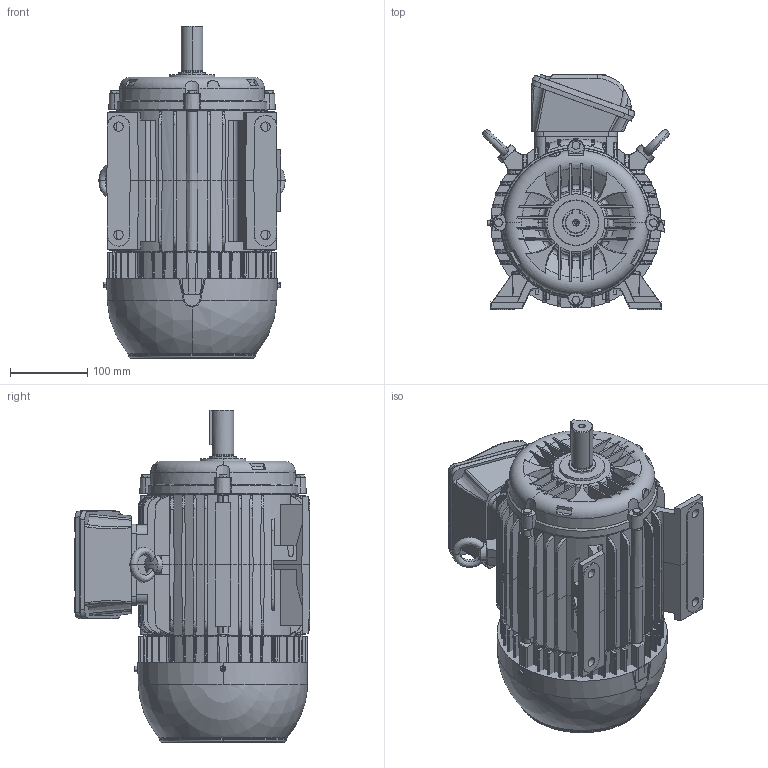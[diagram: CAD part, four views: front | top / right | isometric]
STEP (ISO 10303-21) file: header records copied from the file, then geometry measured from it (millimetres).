
FILE_DESCRIPTION (( 'STEP AP203' ), '1' );
FILE_NAME ('L112M_TOP.STEP', '2020-02-11T13:57:04', ( 'TI WEG' ), ( 'WEG Equipamentos Eletricos S.A' ), 'SwSTEP 2.0', 'SolidWorks 2018', '' );
FILE_SCHEMA (( 'CONFIG_CONTROL_DESIGN' ));
Length unit declared in the file: millimetre
Products named in the file (1): L112M_TOP
Bounding box: 240.65 x 304.15 x 429.1 mm (x, y, z)
Volume: 14345791.2 mm3; surface area: 874885.8 mm2
Topology: 25 solids, 25 shells, 2904 faces, 7326 edges, 4669 vertices
Faces by surface type: plane 1811, bspline 367, cone 336, cylinder 295, torus 89, sphere 6
Entity records: 106430 total; most frequent: CARTESIAN_POINT 41489, ORIENTED_EDGE 14616, DIRECTION 11601, EDGE_CURVE 7308, VERTEX_POINT 4669, LINE 4031, VECTOR 4031, AXIS2_PLACEMENT_3D 3785
